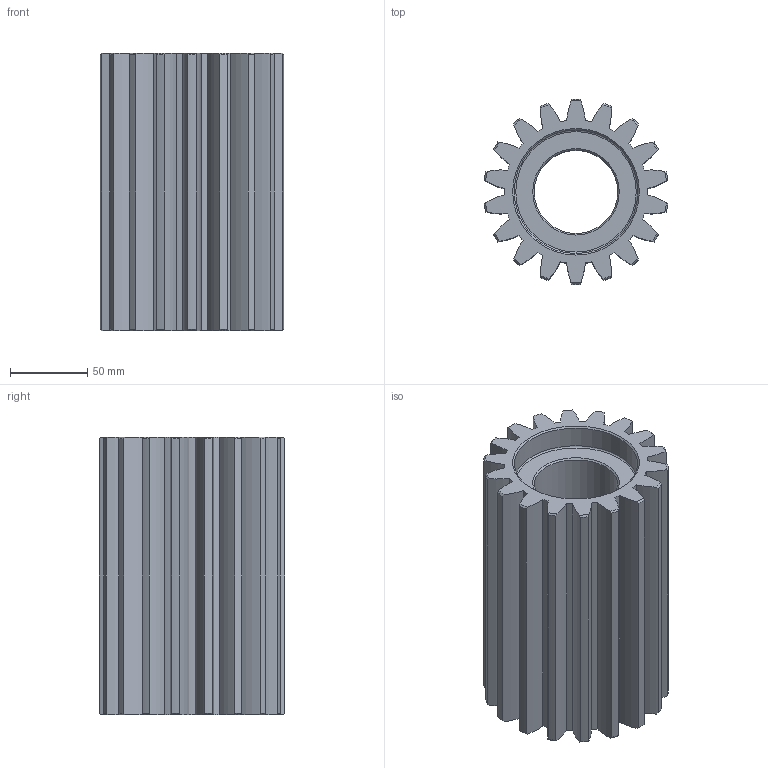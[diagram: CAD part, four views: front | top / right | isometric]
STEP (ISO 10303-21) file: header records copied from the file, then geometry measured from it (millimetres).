
FILE_DESCRIPTION(/* description */ (''),/* implementation_level */ '2;1');
FILE_NAME(/* name */ 'C:\Users\jbart\OneDrive\Plocha\Nová složka\3D modely - stp\Satelit B.stp',/* time_stamp */ '2025-05-15T16:51:26+02:00',/* author */ ('jbart'),/* organization */ (''),/* preprocessor_version */ 'ST-DEVELOPER v18.1',/* originating_system */ 'Autodesk Inventor 2022',/* authorisation */ '');
FILE_SCHEMA (('AUTOMOTIVE_DESIGN { 1 0 10303 214 3 1 1 }'));
Length unit declared in the file: millimetre
Products named in the file (3): Satelit B; Čelní ozubená kola; Čelní ozubené kolo1
Assembly tree (2 placements, depth 3):
  Satelit B
    Čelní ozubená kola
      Čelní ozubené kolo1
Bounding box: 118.96 x 119.97 x 180 mm (x, y, z)
Volume: 1135544.5 mm3; surface area: 168753.4 mm2
Topology: 1 solids, 1 shells, 121 faces, 350 edges, 233 vertices
Faces by surface type: cylinder 75, cone 40, plane 4, torus 2
Full cylindrical faces by diameter (mm): 54 x1, 80 x2
Entity records: 4280 total; most frequent: CARTESIAN_POINT 926, DIRECTION 731, ORIENTED_EDGE 700, EDGE_CURVE 350, AXIS2_PLACEMENT_3D 326, VERTEX_POINT 233, CIRCLE 199, EDGE_LOOP 125
